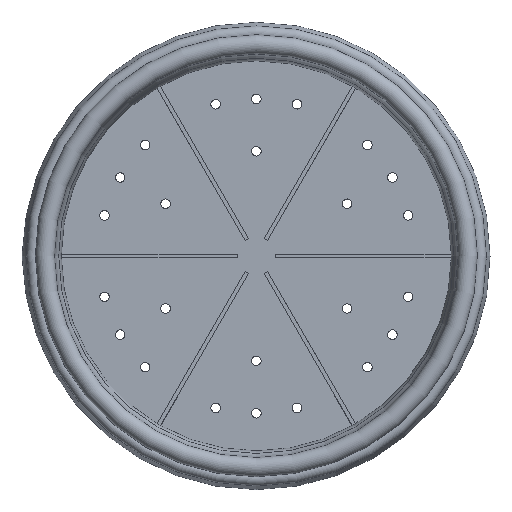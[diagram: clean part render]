
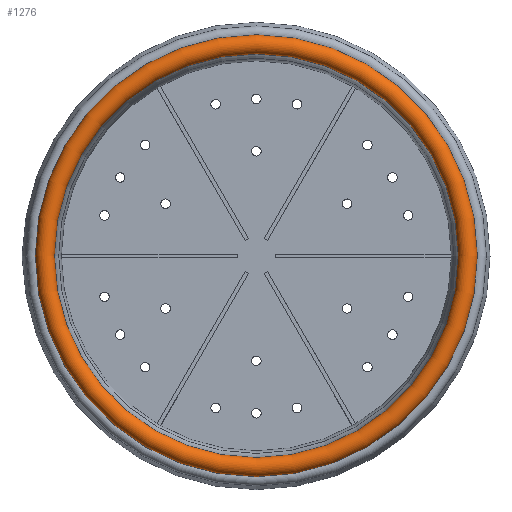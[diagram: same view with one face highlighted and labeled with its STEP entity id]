
A CAD part, top view. The second image highlights one B-rep face of the part: STEP entity #1276.
In plain terms, the highlighted toroidal (fillet/blend) face has major radius 111 mm and minor radius 5 mm.
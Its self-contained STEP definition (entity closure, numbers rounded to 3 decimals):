
#18=TOROIDAL_SURFACE('',#1441,111.,5.);
#154=FACE_OUTER_BOUND('',#245,.T.);
#245=EDGE_LOOP('',(#1097,#1098,#1099,#1100));
#522=CIRCLE('',#1440,114.83);
#523=CIRCLE('',#1442,106.);
#524=CIRCLE('',#1443,5.);
#643=VERTEX_POINT('',#2201);
#644=VERTEX_POINT('',#2205);
#810=EDGE_CURVE('',#643,#643,#522,.T.);
#812=EDGE_CURVE('',#644,#644,#523,.T.);
#813=EDGE_CURVE('',#644,#643,#524,.T.);
#1097=ORIENTED_EDGE('',*,*,#812,.F.);
#1098=ORIENTED_EDGE('',*,*,#813,.T.);
#1099=ORIENTED_EDGE('',*,*,#810,.T.);
#1100=ORIENTED_EDGE('',*,*,#813,.F.);
#1276=ADVANCED_FACE('',(#154),#18,.T.);
#1440=AXIS2_PLACEMENT_3D('',#2202,#1821,#1822);
#1441=AXIS2_PLACEMENT_3D('',#2204,#1824,#1825);
#1442=AXIS2_PLACEMENT_3D('',#2206,#1826,#1827);
#1443=AXIS2_PLACEMENT_3D('',#2207,#1828,#1829);
#1821=DIRECTION('center_axis',(0.,0.,1.));
#1822=DIRECTION('ref_axis',(1.,0.,0.));
#1824=DIRECTION('center_axis',(0.,0.,1.));
#1825=DIRECTION('ref_axis',(1.,0.,0.));
#1826=DIRECTION('center_axis',(0.,0.,1.));
#1827=DIRECTION('ref_axis',(1.,0.,0.));
#1828=DIRECTION('center_axis',(0.,-1.,0.));
#1829=DIRECTION('ref_axis',(-1.,0.,0.));
#2201=CARTESIAN_POINT('',(-114.83,0.,91.786));
#2202=CARTESIAN_POINT('Origin',(0.,0.,91.786));
#2204=CARTESIAN_POINT('Origin',(0.,0.,95.));
#2205=CARTESIAN_POINT('',(-106.,0.,95.));
#2206=CARTESIAN_POINT('Origin',(0.,0.,95.));
#2207=CARTESIAN_POINT('Origin',(-111.,0.,
95.));
